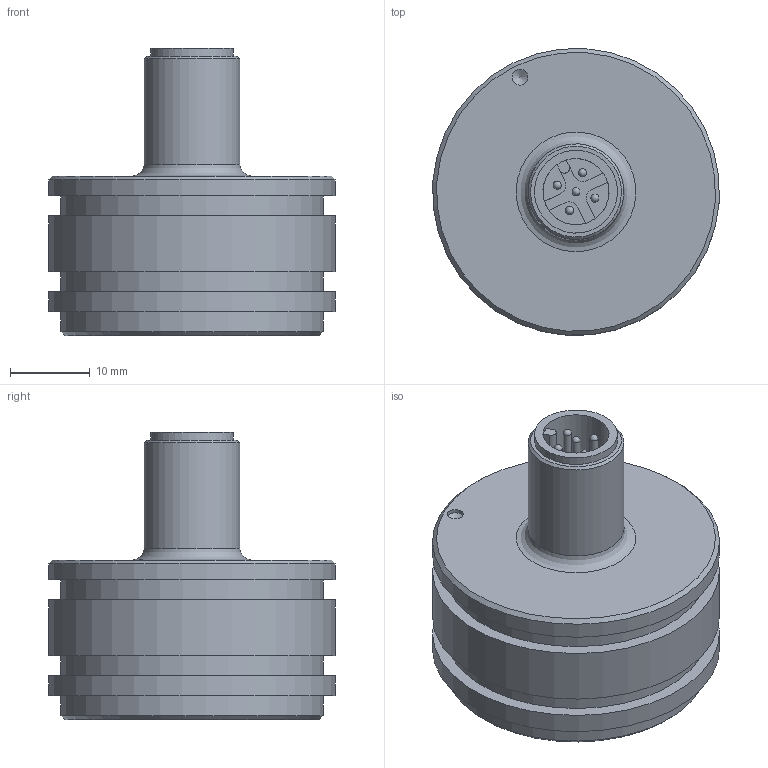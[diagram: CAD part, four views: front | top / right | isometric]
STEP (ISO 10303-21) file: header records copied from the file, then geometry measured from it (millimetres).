
FILE_DESCRIPTION((''),'2;1');
FILE_NAME('C:\Dokumente und Einstellungen\Waneck\Eigene Dateien\Waneck\Zeichnungen\Finkenzeller\PRAS2-XXX-M12A5.stp','2010-05-06T14:49:48',('waneck'),(''),'Autodesk Inventor 2008','Autodesk Inventor 2008','');
FILE_SCHEMA(('AUTOMOTIVE_DESIGN { 1 0 10303 214 1 1 1 1 }'));
Length unit declared in the file: millimetre
Products named in the file (1): Bauteil2
Bounding box: 35.91 x 35.91 x 36.01 mm (x, y, z)
Volume: 20418.6 mm3; surface area: 5750.6 mm2
Topology: 1 solids, 1 shells, 720 faces, 1942 edges, 1290 vertices
Faces by surface type: plane 388, bspline 291, cylinder 33, sphere 5, cone 3
Full cylindrical faces by diameter (mm): 0.923 x1, 1 x5, 1.024 x1, 8.3 x1, 10.4 x1, 12 x1, 33 x3, 36 x3
Entity records: 24470 total; most frequent: CARTESIAN_POINT 7733, ORIENTED_EDGE 3810, DIRECTION 2278, EDGE_CURVE 1905, VERTEX_POINT 1285, VECTOR 1240, LINE 1240, EDGE_LOOP 818
